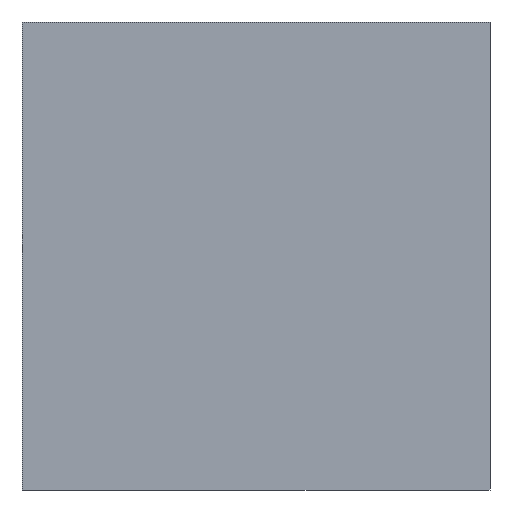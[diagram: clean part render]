
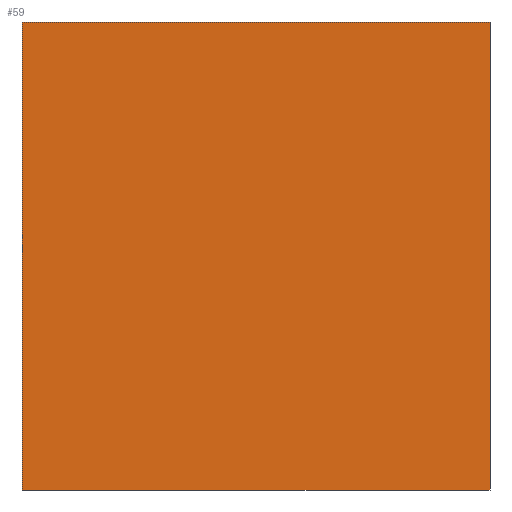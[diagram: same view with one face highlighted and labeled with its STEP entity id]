
A CAD part, left-side view. The second image highlights one B-rep face of the part: STEP entity #59.
In plain terms, the highlighted planar face has unit normal (-1, 0, 0).
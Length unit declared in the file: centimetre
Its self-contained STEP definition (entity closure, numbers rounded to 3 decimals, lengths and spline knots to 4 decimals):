
#4 = DIRECTION ( 'NONE',  ( 1., 0., 0. ) ) ;
#6 = CARTESIAN_POINT ( 'NONE',  ( 0., 1000., 1000. ) ) ;
#44 = VERTEX_POINT ( 'NONE', #202 ) ;
#56 = VERTEX_POINT ( 'NONE', #6 ) ;
#58 = LINE ( 'NONE', #329, #295 ) ;
#59 = ADVANCED_FACE ( 'NONE', ( #402 ), #182, .F. ) ;
#74 = CARTESIAN_POINT ( 'NONE',  ( 0., 1000., 0. ) ) ;
#84 = VECTOR ( 'NONE', #392, 100. ) ;
#98 = LINE ( 'NONE', #396, #413 ) ;
#100 = DIRECTION ( 'NONE',  ( 0., -1., 0. ) ) ;
#134 = CARTESIAN_POINT ( 'NONE',  ( 0., 0., 1000. ) ) ;
#135 = LINE ( 'NONE', #225, #84 ) ;
#145 = EDGE_CURVE ( 'NONE', #318, #44, #58, .T. ) ;
#152 = EDGE_CURVE ( 'NONE', #56, #318, #98, .T. ) ;
#159 = CARTESIAN_POINT ( 'NONE',  ( 0., 1000., 1000. ) ) ;
#162 = EDGE_CURVE ( 'NONE', #368, #44, #135, .T. ) ;
#180 = EDGE_LOOP ( 'NONE', ( #316, #256, #245, #279 ) ) ;
#182 = PLANE ( 'NONE',  #404 ) ;
#202 = CARTESIAN_POINT ( 'NONE',  ( 0., 0., 0. ) ) ;
#209 = DIRECTION ( 'NONE',  ( 0., 0., -1. ) ) ;
#225 = CARTESIAN_POINT ( 'NONE',  ( 0., 1000., 0. ) ) ;
#245 = ORIENTED_EDGE ( 'NONE', *, *, #152, .F. ) ;
#256 = ORIENTED_EDGE ( 'NONE', *, *, #145, .F. ) ;
#279 = ORIENTED_EDGE ( 'NONE', *, *, #333, .T. ) ;
#295 = VECTOR ( 'NONE', #301, 100. ) ;
#301 = DIRECTION ( 'NONE',  ( 0., 0., -1. ) ) ;
#316 = ORIENTED_EDGE ( 'NONE', *, *, #162, .T. ) ;
#318 = VERTEX_POINT ( 'NONE', #134 ) ;
#321 = CARTESIAN_POINT ( 'NONE',  ( 0., 1000., 1000. ) ) ;
#329 = CARTESIAN_POINT ( 'NONE',  ( 0., 0., 1000. ) ) ;
#333 = EDGE_CURVE ( 'NONE', #56, #368, #366, .T. ) ;
#334 = DIRECTION ( 'NONE',  ( 0., 0., -1. ) ) ;
#344 = VECTOR ( 'NONE', #334, 100. ) ;
#366 = LINE ( 'NONE', #159, #344 ) ;
#368 = VERTEX_POINT ( 'NONE', #74 ) ;
#392 = DIRECTION ( 'NONE',  ( 0., -1., 0. ) ) ;
#396 = CARTESIAN_POINT ( 'NONE',  ( 0., 1000., 1000. ) ) ;
#402 = FACE_OUTER_BOUND ( 'NONE', #180, .T. ) ;
#404 = AXIS2_PLACEMENT_3D ( 'NONE', #321, #4, #209 ) ;
#413 = VECTOR ( 'NONE', #100, 100. ) ;
